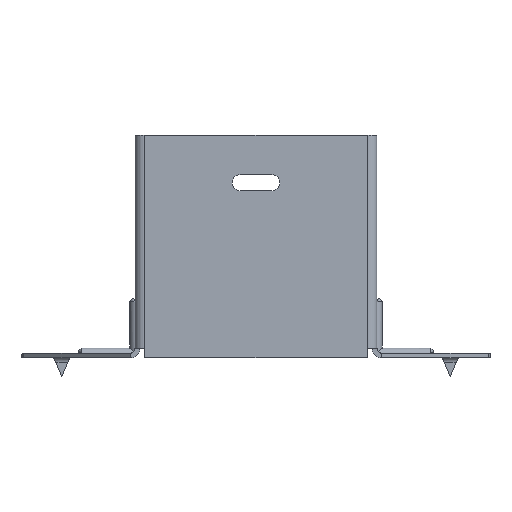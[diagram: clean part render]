
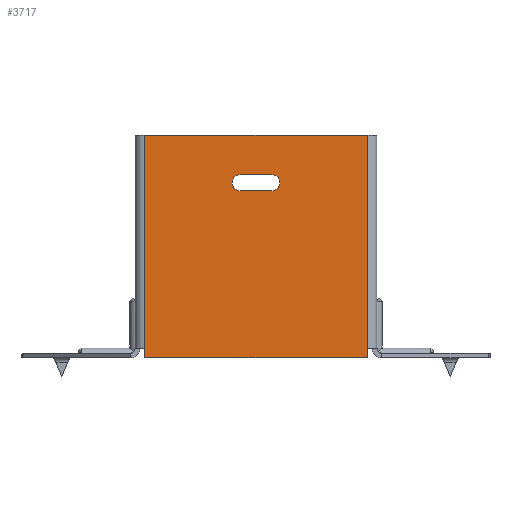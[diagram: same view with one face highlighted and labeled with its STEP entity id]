
A CAD part, front view. The second image highlights one B-rep face of the part: STEP entity #3717.
In plain terms, the highlighted planar face has unit normal (0, -1, 0).
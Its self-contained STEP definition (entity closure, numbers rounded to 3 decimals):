
#138 = CIRCLE ( 'NONE', #13625, 2.5 ) ;
#198 = DIRECTION ( 'NONE',  ( 0., 0., 1. ) ) ;
#360 = FACE_OUTER_BOUND ( 'NONE', #8940, .T. ) ;
#490 = LINE ( 'NONE', #16970, #17659 ) ;
#599 = VERTEX_POINT ( 'NONE', #3716 ) ;
#775 = DIRECTION ( 'NONE',  ( 0., 0., 1. ) ) ;
#851 = EDGE_CURVE ( 'NONE', #6566, #11278, #12365, .T. ) ;
#1588 = EDGE_CURVE ( 'NONE', #7846, #18140, #5140, .T. ) ;
#1627 = CARTESIAN_POINT ( 'NONE',  ( -36.5, 0., -70. ) ) ;
#1792 = CARTESIAN_POINT ( 'NONE',  ( 35., 0., 0. ) ) ;
#1847 = ORIENTED_EDGE ( 'NONE', *, *, #16631, .T. ) ;
#1855 = AXIS2_PLACEMENT_3D ( 'NONE', #7963, #13738, #775 ) ;
#2079 = DIRECTION ( 'NONE',  ( -1., 0., 0. ) ) ;
#2295 = VERTEX_POINT ( 'NONE', #1792 ) ;
#2447 = DIRECTION ( 'NONE',  ( 1., 0., 0. ) ) ;
#2872 = CARTESIAN_POINT ( 'NONE',  ( 5., 0., -12.5 ) ) ;
#3483 = DIRECTION ( 'NONE',  ( 0., 1., 0. ) ) ;
#3493 = VERTEX_POINT ( 'NONE', #2872 ) ;
#3625 = CARTESIAN_POINT ( 'NONE',  ( 35., 0., -70. ) ) ;
#3666 = ORIENTED_EDGE ( 'NONE', *, *, #16649, .F. ) ;
#3716 = CARTESIAN_POINT ( 'NONE',  ( 35., 0., -67. ) ) ;
#3717 = ADVANCED_FACE ( 'NONE', ( #17477, #360 ), #13357, .F. ) ;
#3751 = VECTOR ( 'NONE', #5727, 1000. ) ;
#4163 = CARTESIAN_POINT ( 'NONE',  ( 35., 0., -70. ) ) ;
#4223 = EDGE_CURVE ( 'NONE', #12841, #2295, #490, .T. ) ;
#4234 = EDGE_CURVE ( 'NONE', #5529, #3493, #5733, .T. ) ;
#4467 = CARTESIAN_POINT ( 'NONE',  ( -5., 0., -17.5 ) ) ;
#4865 = LINE ( 'NONE', #1627, #3751 ) ;
#5140 = LINE ( 'NONE', #5304, #13463 ) ;
#5304 = CARTESIAN_POINT ( 'NONE',  ( -35., 0., 0. ) ) ;
#5374 = ORIENTED_EDGE ( 'NONE', *, *, #1588, .T. ) ;
#5529 = VERTEX_POINT ( 'NONE', #16443 ) ;
#5727 = DIRECTION ( 'NONE',  ( -1., 0., 0. ) ) ;
#5733 = LINE ( 'NONE', #13947, #9110 ) ;
#5861 = DIRECTION ( 'NONE',  ( 0., 1., 0. ) ) ;
#6272 = DIRECTION ( 'NONE',  ( 0., 0., -1. ) ) ;
#6566 = VERTEX_POINT ( 'NONE', #10479 ) ;
#6814 = ORIENTED_EDGE ( 'NONE', *, *, #12155, .T. ) ;
#7330 = LINE ( 'NONE', #10362, #16540 ) ;
#7373 = CARTESIAN_POINT ( 'NONE',  ( -5., 0., -15. ) ) ;
#7494 = VECTOR ( 'NONE', #11148, 1000. ) ;
#7515 = CARTESIAN_POINT ( 'NONE',  ( -35., 0., -70. ) ) ;
#7835 = DIRECTION ( 'NONE',  ( 0., 0., 1. ) ) ;
#7846 = VERTEX_POINT ( 'NONE', #14188 ) ;
#7963 = CARTESIAN_POINT ( 'NONE',  ( 5., 0., -15. ) ) ;
#8332 = DIRECTION ( 'NONE',  ( 0., 0., 1. ) ) ;
#8845 = LINE ( 'NONE', #17067, #7494 ) ;
#8940 = EDGE_LOOP ( 'NONE', ( #10333, #5374, #3666, #12821, #1847, #9360 ) ) ;
#9015 = VERTEX_POINT ( 'NONE', #3625 ) ;
#9110 = VECTOR ( 'NONE', #11232, 1000. ) ;
#9360 = ORIENTED_EDGE ( 'NONE', *, *, #4223, .F. ) ;
#9715 = CARTESIAN_POINT ( 'NONE',  ( -35., 0., 0. ) ) ;
#9937 = ORIENTED_EDGE ( 'NONE', *, *, #16712, .T. ) ;
#10122 = AXIS2_PLACEMENT_3D ( 'NONE', #11902, #3483, #7835 ) ;
#10333 = ORIENTED_EDGE ( 'NONE', *, *, #17178, .T. ) ;
#10362 = CARTESIAN_POINT ( 'NONE',  ( -35., 0., 0. ) ) ;
#10479 = CARTESIAN_POINT ( 'NONE',  ( 5., 0., -17.5 ) ) ;
#11148 = DIRECTION ( 'NONE',  ( 0., 0., 1. ) ) ;
#11232 = DIRECTION ( 'NONE',  ( 1., 0., 0. ) ) ;
#11278 = VERTEX_POINT ( 'NONE', #4467 ) ;
#11902 = CARTESIAN_POINT ( 'NONE',  ( 0., 0., 0. ) ) ;
#12155 = EDGE_CURVE ( 'NONE', #3493, #6566, #16260, .T. ) ;
#12343 = EDGE_CURVE ( 'NONE', #9015, #599, #8845, .T. ) ;
#12365 = LINE ( 'NONE', #16542, #12816 ) ;
#12510 = VECTOR ( 'NONE', #8332, 1000. ) ;
#12816 = VECTOR ( 'NONE', #2079, 1000. ) ;
#12821 = ORIENTED_EDGE ( 'NONE', *, *, #12343, .T. ) ;
#12841 = VERTEX_POINT ( 'NONE', #9715 ) ;
#13357 = PLANE ( 'NONE',  #10122 ) ;
#13463 = VECTOR ( 'NONE', #15369, 1000. ) ;
#13468 = EDGE_LOOP ( 'NONE', ( #18552, #9937, #18436, #6814 ) ) ;
#13625 = AXIS2_PLACEMENT_3D ( 'NONE', #7373, #5861, #198 ) ;
#13738 = DIRECTION ( 'NONE',  ( 0., 1., 0. ) ) ;
#13947 = CARTESIAN_POINT ( 'NONE',  ( -5., 0., -12.5 ) ) ;
#14188 = CARTESIAN_POINT ( 'NONE',  ( -35., 0., -67. ) ) ;
#15369 = DIRECTION ( 'NONE',  ( 0., 0., -1. ) ) ;
#16260 = CIRCLE ( 'NONE', #1855, 2.5 ) ;
#16443 = CARTESIAN_POINT ( 'NONE',  ( -5., 0., -12.5 ) ) ;
#16540 = VECTOR ( 'NONE', #6272, 1000. ) ;
#16542 = CARTESIAN_POINT ( 'NONE',  ( -5., 0., -17.5 ) ) ;
#16631 = EDGE_CURVE ( 'NONE', #599, #2295, #18368, .T. ) ;
#16649 = EDGE_CURVE ( 'NONE', #9015, #18140, #4865, .T. ) ;
#16712 = EDGE_CURVE ( 'NONE', #11278, #5529, #138, .T. ) ;
#16970 = CARTESIAN_POINT ( 'NONE',  ( -36.5, 0., 0. ) ) ;
#17067 = CARTESIAN_POINT ( 'NONE',  ( 35., 0., -70. ) ) ;
#17178 = EDGE_CURVE ( 'NONE', #12841, #7846, #7330, .T. ) ;
#17477 = FACE_BOUND ( 'NONE', #13468, .T. ) ;
#17659 = VECTOR ( 'NONE', #2447, 1000. ) ;
#18140 = VERTEX_POINT ( 'NONE', #7515 ) ;
#18368 = LINE ( 'NONE', #4163, #12510 ) ;
#18436 = ORIENTED_EDGE ( 'NONE', *, *, #4234, .T. ) ;
#18552 = ORIENTED_EDGE ( 'NONE', *, *, #851, .T. ) ;
